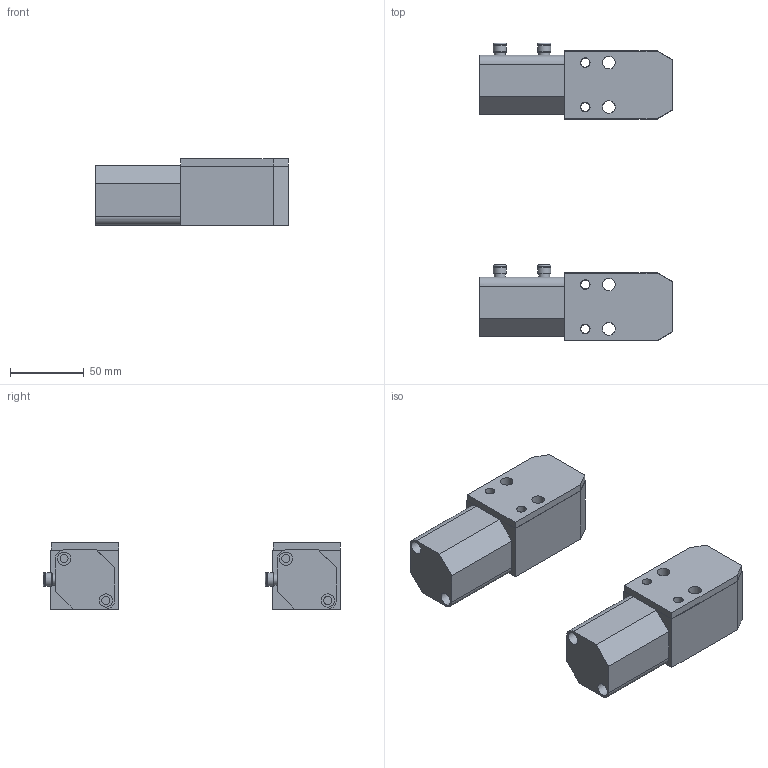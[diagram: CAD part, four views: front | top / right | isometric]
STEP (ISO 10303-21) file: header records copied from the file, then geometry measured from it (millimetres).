
FILE_DESCRIPTION(('STEP AP214'),'1');
FILE_NAME('1004.0010.stp','2020-05-22T14:12:46',(' '),(' '),'Spatial InterOp 3D',' ',' ');
FILE_SCHEMA(('AUTOMOTIVE_DESIGN { 1 0 10303 214 1 1 1 1 }'));
Length unit declared in the file: millimetre
Products named in the file (7): (PMS) 1004.0010; 3; 1; Assemblato; (PMI) 1004.0010; 5; 4
Assembly tree (6 placements, depth 3):
  Assemblato
    (PMS) 1004.0010
      3
      1
    (PMI) 1004.0010
      5
      4
Bounding box: 130.5 x 201.25 x 45 mm (x, y, z)
Volume: 416199.8 mm3; surface area: 79209.6 mm2
Topology: 4 solids, 4 shells, 722 faces, 1898 edges, 1264 vertices
Faces by surface type: extrusion 352, plane 272, cylinder 86, torus 12
Full cylindrical faces by diameter (mm): 5.5 x4, 6 x4, 6.5 x4, 7.5 x8, 8.5 x4, 9 x12, 10 x4, 14 x4, 15 x2
Entity records: 28284 total; most frequent: CARTESIAN_POINT 5931, ORIENTED_EDGE 3664, DIRECTION 2428, EDGE_CURVE 1832, VECTOR 1290, VERTEX_POINT 1256, B_SPLINE_CURVE_WITH_KNOTS 1056, LINE 938
